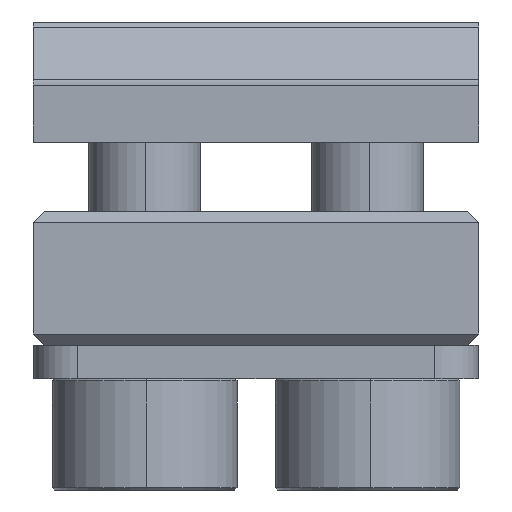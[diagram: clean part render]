
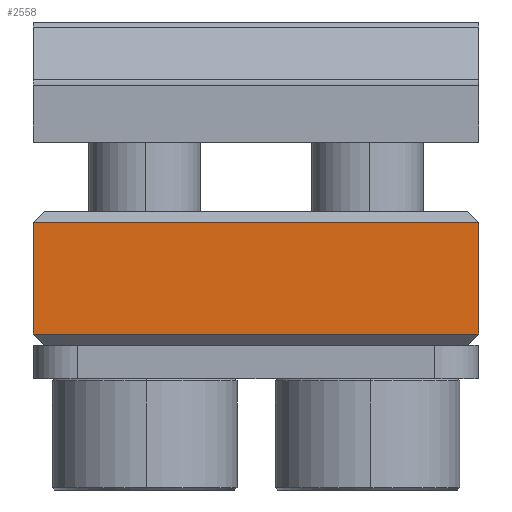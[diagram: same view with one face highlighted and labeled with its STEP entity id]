
A CAD part, front view. The second image highlights one B-rep face of the part: STEP entity #2558.
In plain terms, the highlighted planar face has unit normal (0, -1, 0).
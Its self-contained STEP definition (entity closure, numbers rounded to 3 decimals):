
#148 = LINE ( 'NONE', #1463, #3454 ) ;
#457 = ORIENTED_EDGE ( 'NONE', *, *, #4157, .T. ) ;
#814 = CARTESIAN_POINT ( 'NONE',  ( 10., -37.5, 6. ) ) ;
#818 = CARTESIAN_POINT ( 'NONE',  ( -10., -37.5, 0.5 ) ) ;
#910 = VERTEX_POINT ( 'NONE', #2359 ) ;
#943 = VECTOR ( 'NONE', #2586, 1000. ) ;
#1014 = LINE ( 'NONE', #814, #943 ) ;
#1016 = PLANE ( 'NONE',  #2126 ) ;
#1173 = EDGE_LOOP ( 'NONE', ( #2969, #3844, #4495, #457 ) ) ;
#1346 = CARTESIAN_POINT ( 'NONE',  ( -10., -37.5, 6. ) ) ;
#1463 = CARTESIAN_POINT ( 'NONE',  ( 0., -37.5, 5.5 ) ) ;
#1672 = FACE_OUTER_BOUND ( 'NONE', #1173, .T. ) ;
#1681 = EDGE_CURVE ( 'NONE', #910, #2099, #1014, .T. ) ;
#1691 = CARTESIAN_POINT ( 'NONE',  ( -10., -37.5, 5.5 ) ) ;
#1839 = VECTOR ( 'NONE', #3897, 1000. ) ;
#2030 = CARTESIAN_POINT ( 'NONE',  ( 0., -37.5, 6. ) ) ;
#2099 = VERTEX_POINT ( 'NONE', #4574 ) ;
#2103 = LINE ( 'NONE', #1346, #2751 ) ;
#2126 = AXIS2_PLACEMENT_3D ( 'NONE', #2030, #3842, #2743 ) ;
#2359 = CARTESIAN_POINT ( 'NONE',  ( 10., -37.5, 5.5 ) ) ;
#2558 = ADVANCED_FACE ( 'NONE', ( #1672 ), #1016, .T. ) ;
#2586 = DIRECTION ( 'NONE',  ( 0., 0., -1. ) ) ;
#2743 = DIRECTION ( 'NONE',  ( 0., 0., -1. ) ) ;
#2751 = VECTOR ( 'NONE', #3100, 1000. ) ;
#2861 = EDGE_CURVE ( 'NONE', #3263, #2099, #4025, .T. ) ;
#2969 = ORIENTED_EDGE ( 'NONE', *, *, #3988, .T. ) ;
#3100 = DIRECTION ( 'NONE',  ( 0., 0., -1. ) ) ;
#3174 = CARTESIAN_POINT ( 'NONE',  ( 10., -37.5, 0.5 ) ) ;
#3263 = VERTEX_POINT ( 'NONE', #818 ) ;
#3454 = VECTOR ( 'NONE', #3919, 1000. ) ;
#3842 = DIRECTION ( 'NONE',  ( 0., -1., 0. ) ) ;
#3844 = ORIENTED_EDGE ( 'NONE', *, *, #2861, .T. ) ;
#3897 = DIRECTION ( 'NONE',  ( 1., 0., 0. ) ) ;
#3919 = DIRECTION ( 'NONE',  ( -1., 0., 0. ) ) ;
#3988 = EDGE_CURVE ( 'NONE', #4033, #3263, #2103, .T. ) ;
#4025 = LINE ( 'NONE', #3174, #1839 ) ;
#4033 = VERTEX_POINT ( 'NONE', #1691 ) ;
#4157 = EDGE_CURVE ( 'NONE', #910, #4033, #148, .T. ) ;
#4495 = ORIENTED_EDGE ( 'NONE', *, *, #1681, .F. ) ;
#4574 = CARTESIAN_POINT ( 'NONE',  ( 10., -37.5, 0.5 ) ) ;
